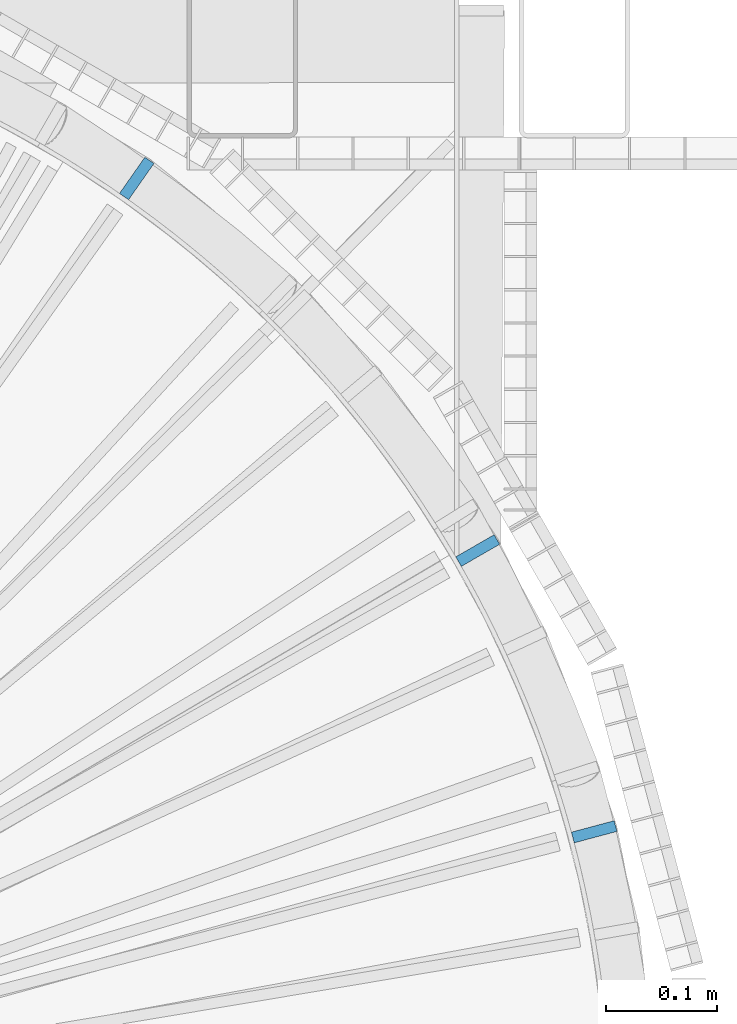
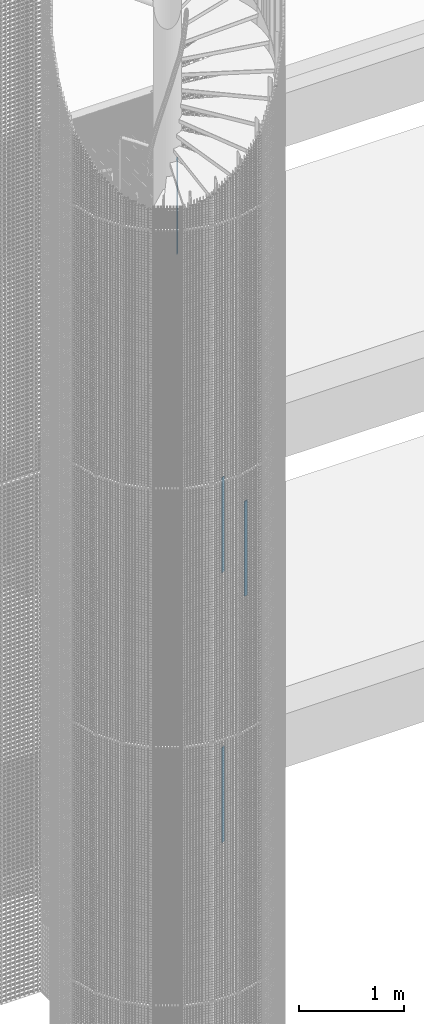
# One storey, part 15 of 1183: 4 columns, 4 elements without a shape of their own.
"""IFC2X3 building model written with IfcOpenShell, lengths in millimetres."""

from ifc_helpers import new_model, si_unit, frame, origin_with_axes, origin_2d_with_axis, place, context, subcontext, project, spatial, rectangle, extrude, material, type_object, element, aggregate, save


model = new_model("IFC2X3")

# Units and contexts
model_context = context("Model", 3, precision=1e-05, world=origin_with_axes())
body_context = subcontext(model_context, "Body", "Model", "MODEL_VIEW")
ifc_project = project(units=[si_unit("LENGTHUNIT", "METRE", prefix="MILLI"), si_unit("AREAUNIT", "SQUARE_METRE"), si_unit("VOLUMEUNIT", "CUBIC_METRE"), si_unit("MASSUNIT", "GRAM", prefix="KILO"), si_unit("TIMEUNIT", "SECOND"), si_unit("PLANEANGLEUNIT", "RADIAN"), si_unit("SOLIDANGLEUNIT", "STERADIAN"), si_unit("THERMODYNAMICTEMPERATUREUNIT", "DEGREE_CELSIUS"), si_unit("LUMINOUSINTENSITYUNIT", "LUMEN")], contexts=[model_context])

# Site, building, storey
site_placement = place(None, origin_with_axes())
site = spatial("IfcSite", under=ifc_project, at=site_placement, Name="Undefined", CompositionType="ELEMENT")
building_placement = place(site_placement, origin_with_axes())
building = spatial("IfcBuilding", under=site, at=building_placement, Name="Undefined", CompositionType="ELEMENT")
storey_placement = place(building_placement, origin_with_axes())
storey = spatial("IfcBuildingStorey", under=building, at=storey_placement, Name="Undefined", CompositionType="ELEMENT", Elevation=0.0)

# Assembly, column
assembly_1_placement = place(storey_placement, origin_with_axes())
assembly_1 = element("IfcElementAssembly", 1, at=assembly_1_placement, inside=storey, Name="MONTANT", AssemblyPlace="NOTDEFINED", PredefinedType="NOTDEFINED")
ifc_material = material(Name="STEEL/S235JR")
column_type = type_object("IfcColumnType", Name="PL10*40", PredefinedType="NOTDEFINED")
column_1_placement = place(assembly_1_placement, frame((604.549563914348, 863.38625468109, 13220.4), z_axis=(0.0, 0.0, 1.0), x_axis=(-0.573576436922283, -0.819152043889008, 0.0)))
column_1 = element("IfcColumn", 2, at=column_1_placement, type_object=column_type, material=ifc_material, Name="MONTANT", context=body_context, shape_type="SweptSolid", body=[
    extrude(rectangle(XDim=10.0, YDim=40.0, at=origin_2d_with_axis()), frame((0.0, 0.0, 1100.0), z_axis=(0.0, 0.0, -1.0), x_axis=(0.0, 1.0, 0.0)), (0.0, 0.0, 1.0), 1100.0),
])
aggregate(assembly_1, [column_1])

assembly_2_placement = place(storey_placement, origin_with_axes())
assembly_2 = element("IfcElementAssembly", 3, at=assembly_2_placement, inside=storey, Name="MONTANT", AssemblyPlace="NOTDEFINED", PredefinedType="NOTDEFINED")
column_2_placement = place(assembly_2_placement, frame((912.790775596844, 527.000000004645, 9620.40000000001), z_axis=(0.0, 0.0, 1.0), x_axis=(-0.866025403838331, -0.499999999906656, 0.0)))
column_2 = element("IfcColumn", 4, at=column_2_placement, type_object=column_type, material=ifc_material, Name="MONTANT", context=body_context, shape_type="SweptSolid", body=[
    extrude(rectangle(XDim=10.0, YDim=40.0, at=origin_2d_with_axis()), frame((0.0, 0.0, 1100.0), z_axis=(0.0, 0.0, -1.0), x_axis=(0.0, 1.0, 0.0)), (0.0, 0.0, 1.0), 1100.0),
])
aggregate(assembly_2, [column_2])

assembly_3_placement = place(storey_placement, origin_with_axes())
assembly_3 = element("IfcElementAssembly", 5, at=assembly_3_placement, inside=storey, Name="MONTANT", AssemblyPlace="NOTDEFINED", PredefinedType="NOTDEFINED")
column_3_placement = place(assembly_3_placement, frame((1018.08582090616, 272.795273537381, 9463.88000000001), z_axis=(0.0, 0.0, 1.0), x_axis=(-0.965925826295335, -0.258819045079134, 0.0)))
column_3 = element("IfcColumn", 6, at=column_3_placement, type_object=column_type, material=ifc_material, Name="MONTANT", context=body_context, shape_type="SweptSolid", body=[
    extrude(rectangle(XDim=10.0, YDim=40.0, at=origin_2d_with_axis()), frame((0.0, 0.0, 1100.0), z_axis=(0.0, 0.0, -1.0), x_axis=(0.0, 1.0, 0.0)), (0.0, 0.0, 1.0), 1100.0),
])
aggregate(assembly_3, [column_3])

assembly_4_placement = place(storey_placement, origin_with_axes())
assembly_4 = element("IfcElementAssembly", 7, at=assembly_4_placement, inside=storey, Name="MONTANT", AssemblyPlace="NOTDEFINED", PredefinedType="NOTDEFINED")
column_4_placement = place(assembly_4_placement, frame((912.790775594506, 527.000000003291, 6489.84000000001), z_axis=(0.0, 0.0, 1.0), x_axis=(-0.866025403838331, -0.499999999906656, 0.0)))
column_4 = element("IfcColumn", 8, at=column_4_placement, type_object=column_type, material=ifc_material, Name="MONTANT", context=body_context, shape_type="SweptSolid", body=[
    extrude(rectangle(XDim=10.0, YDim=40.0, at=origin_2d_with_axis()), frame((0.0, 0.0, 1100.0), z_axis=(0.0, 0.0, -1.0), x_axis=(0.0, 1.0, 0.0)), (0.0, 0.0, 1.0), 1100.0),
])
aggregate(assembly_4, [column_4])

save(model, "model.ifc")
